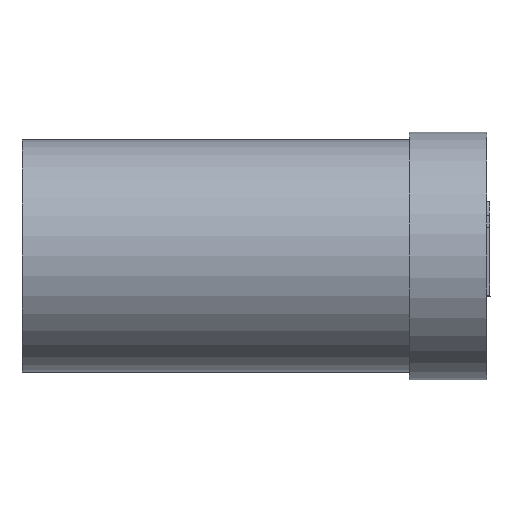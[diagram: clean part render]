
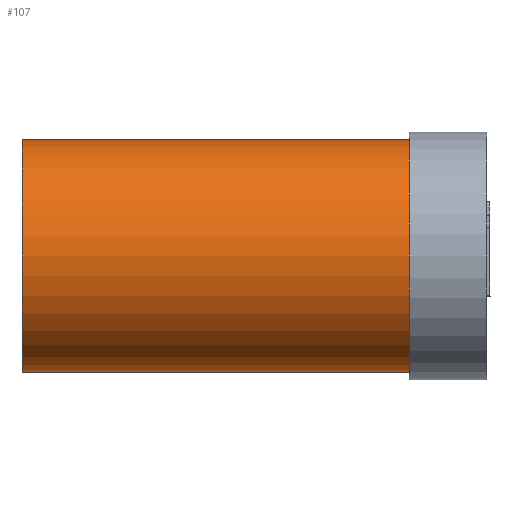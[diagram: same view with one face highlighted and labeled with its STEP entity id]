
A CAD part, left-side view. The second image highlights one B-rep face of the part: STEP entity #107.
In plain terms, the highlighted cylindrical face has radius 7.5 mm (diameter 15 mm), a partial arc.
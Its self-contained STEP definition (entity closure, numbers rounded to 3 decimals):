
#31 = DIRECTION ( 'NONE',  ( 0., -1., 0. ) ) ;
#107 = ADVANCED_FACE ( 'NONE', ( #1027 ), #222, .T. ) ;
#137 = VERTEX_POINT ( 'NONE', #1059 ) ;
#181 = ORIENTED_EDGE ( 'NONE', *, *, #787, .T. ) ;
#222 = CYLINDRICAL_SURFACE ( 'NONE', #1072, 7.5 ) ;
#273 = EDGE_CURVE ( 'NONE', #137, #852, #458, .T. ) ;
#337 = EDGE_LOOP ( 'NONE', ( #766, #181, #835, #1096 ) ) ;
#380 = EDGE_CURVE ( 'NONE', #1279, #1213, #865, .T. ) ;
#456 = CIRCLE ( 'NONE', #1108, 7.5 ) ;
#458 = LINE ( 'NONE', #883, #762 ) ;
#482 = CARTESIAN_POINT ( 'NONE',  ( 0., -10., -7.5 ) ) ;
#583 = CARTESIAN_POINT ( 'NONE',  ( 0., -10., 7.5 ) ) ;
#673 = CARTESIAN_POINT ( 'NONE',  ( 0., 15., 0. ) ) ;
#682 = AXIS2_PLACEMENT_3D ( 'NONE', #673, #31, #792 ) ;
#762 = VECTOR ( 'NONE', #794, 1000. ) ;
#766 = ORIENTED_EDGE ( 'NONE', *, *, #273, .F. ) ;
#787 = EDGE_CURVE ( 'NONE', #137, #1279, #1363, .T. ) ;
#792 = DIRECTION ( 'NONE',  ( 0., 0., 1. ) ) ;
#794 = DIRECTION ( 'NONE',  ( 0., -1., 0. ) ) ;
#799 = DIRECTION ( 'NONE',  ( 0., -1., 0. ) ) ;
#813 = CARTESIAN_POINT ( 'NONE',  ( 0., 10., -7.5 ) ) ;
#835 = ORIENTED_EDGE ( 'NONE', *, *, #380, .T. ) ;
#844 = DIRECTION ( 'NONE',  ( 0., 0., -1. ) ) ;
#852 = VERTEX_POINT ( 'NONE', #583 ) ;
#865 = LINE ( 'NONE', #813, #1331 ) ;
#883 = CARTESIAN_POINT ( 'NONE',  ( 0., 10., 7.5 ) ) ;
#939 = CARTESIAN_POINT ( 'NONE',  ( 0., -10., 0. ) ) ;
#945 = DIRECTION ( 'NONE',  ( 0., -1., 0. ) ) ;
#952 = DIRECTION ( 'NONE',  ( 0., 1., 0. ) ) ;
#1027 = FACE_OUTER_BOUND ( 'NONE', #337, .T. ) ;
#1059 = CARTESIAN_POINT ( 'NONE',  ( 0., 15., 7.5 ) ) ;
#1072 = AXIS2_PLACEMENT_3D ( 'NONE', #1383, #945, #844 ) ;
#1096 = ORIENTED_EDGE ( 'NONE', *, *, #1295, .T. ) ;
#1108 = AXIS2_PLACEMENT_3D ( 'NONE', #939, #952, #1367 ) ;
#1135 = CARTESIAN_POINT ( 'NONE',  ( 0., 15., -7.5 ) ) ;
#1213 = VERTEX_POINT ( 'NONE', #482 ) ;
#1279 = VERTEX_POINT ( 'NONE', #1135 ) ;
#1295 = EDGE_CURVE ( 'NONE', #1213, #852, #456, .T. ) ;
#1331 = VECTOR ( 'NONE', #799, 1000. ) ;
#1363 = CIRCLE ( 'NONE', #682, 7.5 ) ;
#1367 = DIRECTION ( 'NONE',  ( 0., 0., -1. ) ) ;
#1383 = CARTESIAN_POINT ( 'NONE',  ( 0., 10., 0. ) ) ;
